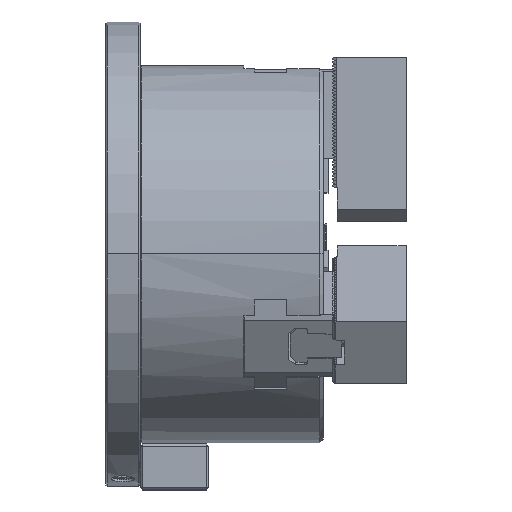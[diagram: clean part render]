
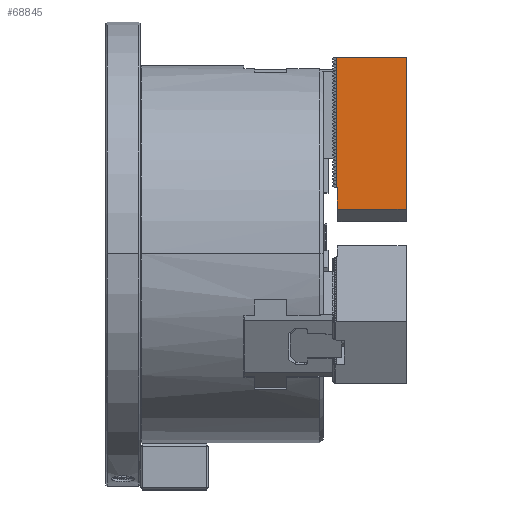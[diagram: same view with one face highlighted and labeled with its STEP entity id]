
A CAD part, top view. The second image highlights one B-rep face of the part: STEP entity #68845.
In plain terms, the highlighted planar face has unit normal (0, 0, 1).
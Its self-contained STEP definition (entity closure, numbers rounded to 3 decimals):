
#723 = ORIENTED_EDGE ( 'NONE', *, *, #77685, .T. ) ;
#1619 = DIRECTION ( 'NONE',  ( 0., -1., 0. ) ) ;
#3177 = DIRECTION ( 'NONE',  ( 1., 0., 0. ) ) ;
#3358 = FACE_OUTER_BOUND ( 'NONE', #23243, .T. ) ;
#4405 = CARTESIAN_POINT ( 'NONE',  ( -72., 32., 15.5 ) ) ;
#6213 = DIRECTION ( 'NONE',  ( 0., -1., 0. ) ) ;
#7758 = VERTEX_POINT ( 'NONE', #10859 ) ;
#10859 = CARTESIAN_POINT ( 'NONE',  ( -5.485, 2., 15.5 ) ) ;
#11608 = VERTEX_POINT ( 'NONE', #79795 ) ;
#11977 = ORIENTED_EDGE ( 'NONE', *, *, #51753, .F. ) ;
#12831 = CARTESIAN_POINT ( 'NONE',  ( -72., 32., 15.5 ) ) ;
#18114 = VERTEX_POINT ( 'NONE', #81318 ) ;
#21435 = DIRECTION ( 'NONE',  ( 0., 0., 1. ) ) ;
#23243 = EDGE_LOOP ( 'NONE', ( #11977, #42595, #48651, #56923, #723, #31039 ) ) ;
#24313 = VERTEX_POINT ( 'NONE', #38914 ) ;
#27275 = PLANE ( 'NONE',  #27697 ) ;
#27697 = AXIS2_PLACEMENT_3D ( 'NONE', #46276, #21435, #1619 ) ;
#30038 = EDGE_CURVE ( 'NONE', #7758, #11608, #56180, .T. ) ;
#31039 = ORIENTED_EDGE ( 'NONE', *, *, #58615, .T. ) ;
#32679 = CARTESIAN_POINT ( 'NONE',  ( 0., 2., 15.5 ) ) ;
#35864 = CARTESIAN_POINT ( 'NONE',  ( -72., 1.4, 15.5 ) ) ;
#38601 = CARTESIAN_POINT ( 'NONE',  ( -72., 1.4, 15.5 ) ) ;
#38914 = CARTESIAN_POINT ( 'NONE',  ( -5.485, 32., 15.5 ) ) ;
#39204 = LINE ( 'NONE', #12831, #59007 ) ;
#40595 = VECTOR ( 'NONE', #75655, 1000. ) ;
#42595 = ORIENTED_EDGE ( 'NONE', *, *, #30038, .F. ) ;
#44598 = VECTOR ( 'NONE', #47109, 1000. ) ;
#46276 = CARTESIAN_POINT ( 'NONE',  ( -72., 32., 15.5 ) ) ;
#47109 = DIRECTION ( 'NONE',  ( 0., 1., 0. ) ) ;
#47884 = CARTESIAN_POINT ( 'NONE',  ( -72., 32., 15.5 ) ) ;
#48651 = ORIENTED_EDGE ( 'NONE', *, *, #76451, .T. ) ;
#49267 = VECTOR ( 'NONE', #71091, 1000. ) ;
#51011 = EDGE_CURVE ( 'NONE', #68456, #24313, #68648, .T. ) ;
#51753 = EDGE_CURVE ( 'NONE', #11608, #18114, #76437, .T. ) ;
#56180 = LINE ( 'NONE', #32679, #49267 ) ;
#56923 = ORIENTED_EDGE ( 'NONE', *, *, #51011, .F. ) ;
#58615 = EDGE_CURVE ( 'NONE', #76091, #18114, #64351, .T. ) ;
#58656 = CARTESIAN_POINT ( 'NONE',  ( -15., 2., 15.5 ) ) ;
#59007 = VECTOR ( 'NONE', #6213, 1000. ) ;
#59572 = CARTESIAN_POINT ( 'NONE',  ( -5.485, 0., 15.5 ) ) ;
#59606 = VECTOR ( 'NONE', #71399, 1000. ) ;
#64351 = LINE ( 'NONE', #38601, #40595 ) ;
#64386 = LINE ( 'NONE', #59572, #44598 ) ;
#67597 = VECTOR ( 'NONE', #3177, 1000. ) ;
#68456 = VERTEX_POINT ( 'NONE', #4405 ) ;
#68648 = LINE ( 'NONE', #47884, #67597 ) ;
#68845 = ADVANCED_FACE ( 'NONE', ( #3358 ), #27275, .T. ) ;
#71091 = DIRECTION ( 'NONE',  ( -1., 0., 0. ) ) ;
#71399 = DIRECTION ( 'NONE',  ( 0., -1., 0. ) ) ;
#75655 = DIRECTION ( 'NONE',  ( 1., 0., 0. ) ) ;
#76091 = VERTEX_POINT ( 'NONE', #35864 ) ;
#76437 = LINE ( 'NONE', #58656, #59606 ) ;
#76451 = EDGE_CURVE ( 'NONE', #7758, #24313, #64386, .T. ) ;
#77685 = EDGE_CURVE ( 'NONE', #68456, #76091, #39204, .T. ) ;
#79795 = CARTESIAN_POINT ( 'NONE',  ( -15., 2., 15.5 ) ) ;
#81318 = CARTESIAN_POINT ( 'NONE',  ( -15., 1.4, 15.5 ) ) ;
